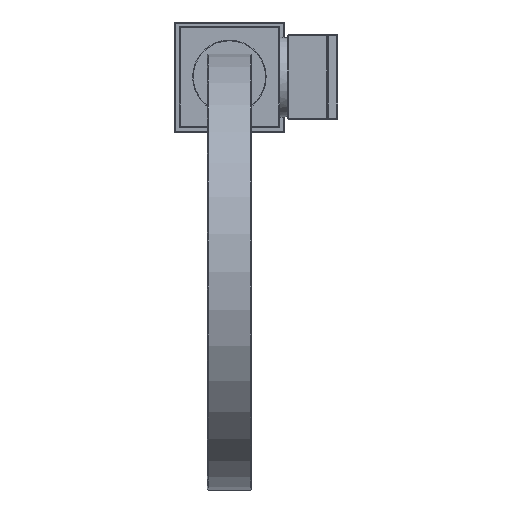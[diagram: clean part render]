
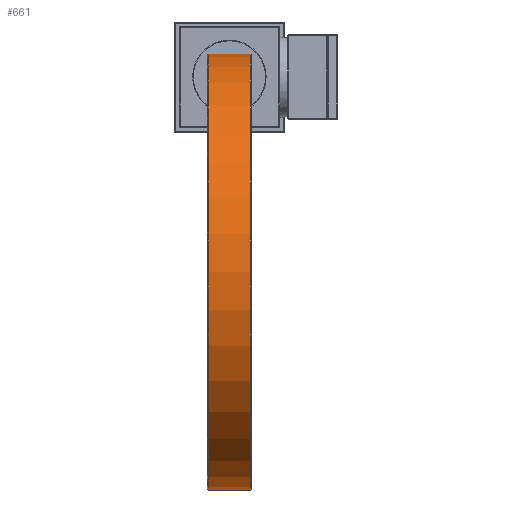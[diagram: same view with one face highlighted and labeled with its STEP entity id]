
A CAD part, top view. The second image highlights one B-rep face of the part: STEP entity #661.
In plain terms, the highlighted cylindrical face has radius 108.5 mm (diameter 217 mm), a partial arc.
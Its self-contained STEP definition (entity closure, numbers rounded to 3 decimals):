
#661=ADVANCED_FACE('',(#1657),#1659,.T.);
#1657=FACE_BOUND('',#1658,.T.);
#1658=EDGE_LOOP('',(#2761,#2762,#2763,#2764));
#1659=CYLINDRICAL_SURFACE('',#1660,108.5);
#1660=AXIS2_PLACEMENT_3D('',#1661,#1662,#1663);
#1661=CARTESIAN_POINT('',(-10.5,-97.5,277.5));
#1662=DIRECTION('',(1.,0.,0.));
#1663=DIRECTION('',(0.,1.,0.));
#2761=ORIENTED_EDGE('',*,*,#3037,.T.);
#2762=ORIENTED_EDGE('',*,*,#3077,.T.);
#2763=ORIENTED_EDGE('',*,*,#3078,.F.);
#2764=ORIENTED_EDGE('',*,*,#3079,.F.);
#3037=EDGE_CURVE('',#3328,#3325,#3329,.T.);
#3077=EDGE_CURVE('',#3325,#3389,#3392,.T.);
#3078=EDGE_CURVE('',#3393,#3389,#3394,.T.);
#3079=EDGE_CURVE('',#3328,#3393,#3395,.T.);
#3325=VERTEX_POINT('',#3945);
#3328=VERTEX_POINT('',#3953);
#3329=LINE('',#3954,#3955);
#3389=VERTEX_POINT('',#4104);
#3392=CIRCLE('',#4112,108.5);
#3393=VERTEX_POINT('',#4116);
#3394=LINE('',#4117,#4118);
#3395=CIRCLE('',#4120,108.5);
#3945=CARTESIAN_POINT('',(-10.5,11.,277.5));
#3953=CARTESIAN_POINT('',(10.5,11.,277.5));
#3954=CARTESIAN_POINT('',(10.5,11.,277.5));
#3955=VECTOR('',#3956,1.);
#3956=DIRECTION('',(-1.,0.,0.));
#4104=CARTESIAN_POINT('',(-10.5,-206.,277.5));
#4112=AXIS2_PLACEMENT_3D('',#4113,#4114,#4115);
#4113=CARTESIAN_POINT('',(-10.5,-97.5,277.5));
#4114=DIRECTION('',(1.,0.,0.));
#4115=DIRECTION('',(0.,1.,0.));
#4116=CARTESIAN_POINT('',(10.5,-206.,277.5));
#4117=CARTESIAN_POINT('',(10.5,-206.,277.5));
#4118=VECTOR('',#4119,1.);
#4119=DIRECTION('',(-1.,0.,0.));
#4120=AXIS2_PLACEMENT_3D('',#4121,#4122,#4123);
#4121=CARTESIAN_POINT('',(10.5,-97.5,277.5));
#4122=DIRECTION('',(1.,0.,0.));
#4123=DIRECTION('',(0.,1.,0.));
